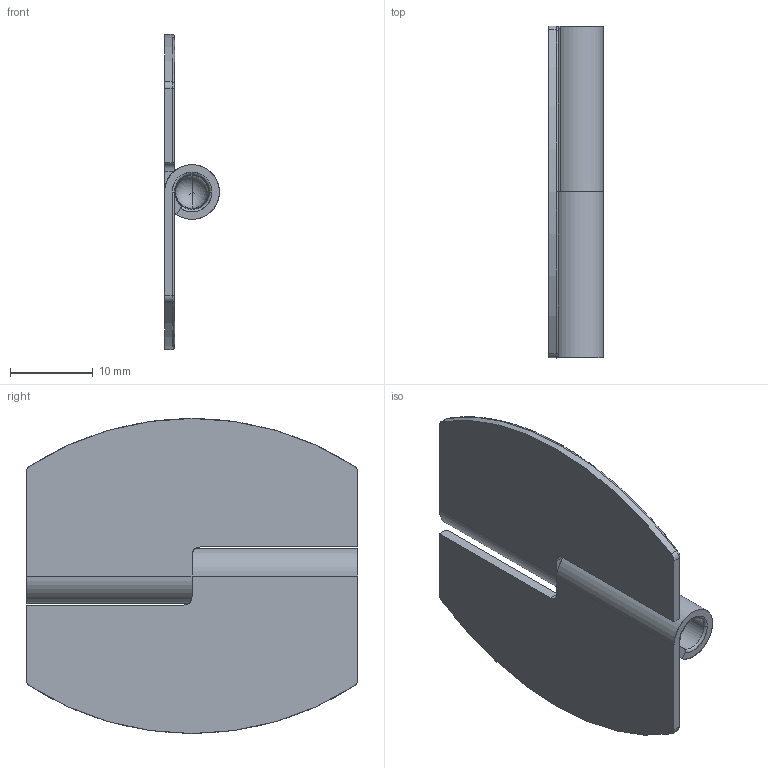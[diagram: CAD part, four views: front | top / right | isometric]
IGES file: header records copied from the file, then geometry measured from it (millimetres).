
Start section: SolidWorks IGES FILE using analytic representation for surfaces
Global section: file name: E:\妙子\仕事\solidworks\ヒンジ20130813\DEH-38\DEH-38-3L\DEH-38-3L.IGS; native system: SolidWorks 2003 by SolidWorks Corporation; preprocessor: Version 5.3; author: 妙子,,; organization: 11; date: 130814.154140; units: millimetre
Bounding box: 6.6 x 40 x 38 mm (x, y, z)
Surface area: 4161 mm2 (no closed solid volume)
Topology: 0 solids, 0 shells, 47 faces, 580 edges, 580 vertices
Faces by surface type: bspline 26, revolution 21
